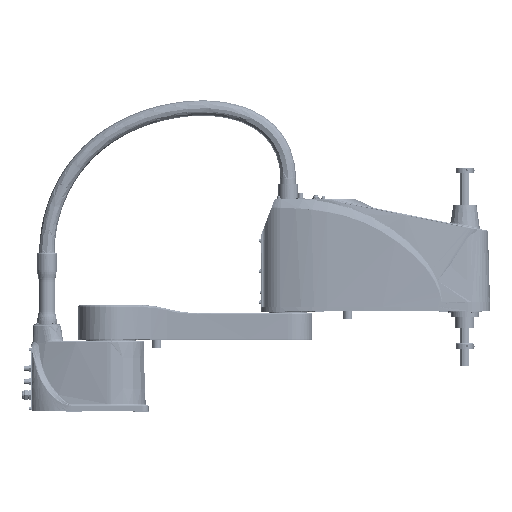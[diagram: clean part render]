
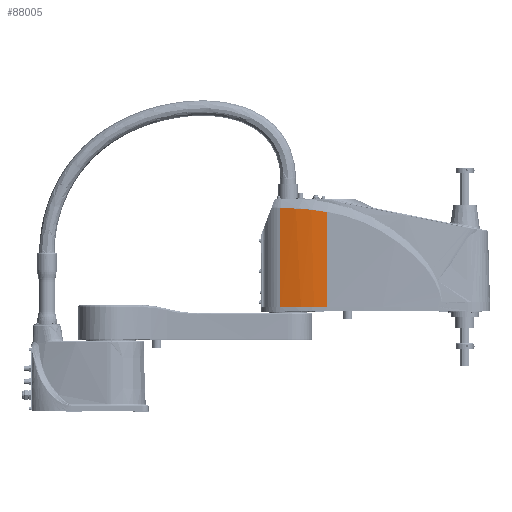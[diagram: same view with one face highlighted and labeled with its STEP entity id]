
A CAD part, top view. The second image highlights one B-rep face of the part: STEP entity #88005.
In plain terms, the highlighted cylindrical face has radius 378.01 mm (diameter 756.02 mm), a partial arc.
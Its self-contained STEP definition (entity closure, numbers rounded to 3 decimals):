
#5980 = VECTOR ( 'NONE', #121865, 1000. ) ;
#13434 = CARTESIAN_POINT ( 'NONE',  ( 484.396, 451.819, 74.483 ) ) ;
#14195 = CARTESIAN_POINT ( 'NONE',  ( 391.382, 460.252, 62.055 ) ) ;
#14941 = CARTESIAN_POINT ( 'NONE',  ( 417.517, 459.26, 67.897 ) ) ;
#16456 = VERTEX_POINT ( 'NONE', #225027 ) ;
#26816 = CARTESIAN_POINT ( 'NONE',  ( 488., 451.178, 74.5 ) ) ;
#29043 = CYLINDRICAL_SURFACE ( 'NONE', #31838, 378.01 ) ;
#29714 = CARTESIAN_POINT ( 'NONE',  ( 486.89, 451.37, 74.5 ) ) ;
#31302 = CARTESIAN_POINT ( 'NONE',  ( 399.811, 237., 64.499 ) ) ;
#31838 = AXIS2_PLACEMENT_3D ( 'NONE', #65748, #205390, #209177 ) ;
#32025 = CARTESIAN_POINT ( 'NONE',  ( 483.704, 451.948, 74.476 ) ) ;
#32719 = EDGE_CURVE ( 'NONE', #61798, #16456, #135805, .T. ) ;
#32782 = CARTESIAN_POINT ( 'NONE',  ( 481.906, 452.281, 74.451 ) ) ;
#33593 = CARTESIAN_POINT ( 'NONE',  ( 452.442, 237., 73.244 ) ) ;
#33642 = LINE ( 'NONE', #70803, #183228 ) ;
#37800 = EDGE_CURVE ( 'NONE', #219121, #16456, #33642, .T. ) ;
#40721 = EDGE_CURVE ( 'NONE', #214014, #219121, #72146, .T. ) ;
#48345 = CARTESIAN_POINT ( 'NONE',  ( 443.825, 457.467, 72.015 ) ) ;
#49097 = CARTESIAN_POINT ( 'NONE',  ( 413.148, 459.471, 67.042 ) ) ;
#51392 = CARTESIAN_POINT ( 'NONE',  ( 470.221, 237., 74.5 ) ) ;
#61798 = VERTEX_POINT ( 'NONE', #155151 ) ;
#65748 = CARTESIAN_POINT ( 'NONE',  ( 488., 482.01, -303.51 ) ) ;
#66136 = CARTESIAN_POINT ( 'NONE',  ( 482.459, 452.179, 74.46 ) ) ;
#66894 = CARTESIAN_POINT ( 'NONE',  ( 483.566, 451.974, 74.474 ) ) ;
#70803 = CARTESIAN_POINT ( 'NONE',  ( 488., 482.01, 74.5 ) ) ;
#72146 = B_SPLINE_CURVE_WITH_KNOTS ( 'NONE', 3,
 ( #136716, #14195, #118871, #49097, #14941, #173144, #173881, #48345, #138988, #172398, #192495, #171627, #138220, #32782, #66136, #156155, #207278, #66894, #32025, #86279, #101038, #13434, #156897, #102554, #29714, #225107 ),
 .UNSPECIFIED., .F., .F.,
 ( 4, 2, 2, 2, 2, 2, 2, 2, 2, 2, 2, 2, 4 ),
 ( 0., 0.25, 0.375, 0.5, 0.75, 0.875, 0.938, 0.953, 0.957, 0.961, 0.965, 0.969, 1. ),
 .UNSPECIFIED. ) ;
#81719 = CARTESIAN_POINT ( 'NONE',  ( 382.735, 460.41, 59.548 ) ) ;
#86279 = CARTESIAN_POINT ( 'NONE',  ( 483.981, 451.896, 74.479 ) ) ;
#88005 = ADVANCED_FACE ( 'NONE', ( #123577 ), #29043, .T. ) ;
#94721 = LINE ( 'NONE', #139671, #5980 ) ;
#101038 = CARTESIAN_POINT ( 'NONE',  ( 484.119, 451.87, 74.48 ) ) ;
#102554 = CARTESIAN_POINT ( 'NONE',  ( 485.781, 451.566, 74.495 ) ) ;
#104128 = CARTESIAN_POINT ( 'NONE',  ( 488., 237., 74.5 ) ) ;
#108376 = EDGE_CURVE ( 'NONE', #214014, #61798, #94721, .T. ) ;
#118871 = CARTESIAN_POINT ( 'NONE',  ( 400.068, 460.012, 64.239 ) ) ;
#121865 = DIRECTION ( 'NONE',  ( 0., -1., 0. ) ) ;
#123577 = FACE_OUTER_BOUND ( 'NONE', #167121, .T. ) ;
#129894 = ORIENTED_EDGE ( 'NONE', *, *, #40721, .F. ) ;
#135805 = B_SPLINE_CURVE_WITH_KNOTS ( 'NONE', 3,
 ( #187945, #31302, #174686, #33593, #51392, #104128 ),
 .UNSPECIFIED., .F., .F.,
 ( 4, 2, 4 ),
 ( 0., 0.5, 1. ),
 .UNSPECIFIED. ) ;
#136716 = CARTESIAN_POINT ( 'NONE',  ( 382.735, 460.41, 59.548 ) ) ;
#138220 = CARTESIAN_POINT ( 'NONE',  ( 479.139, 452.781, 74.403 ) ) ;
#138988 = CARTESIAN_POINT ( 'NONE',  ( 452.633, 456.596, 72.946 ) ) ;
#139671 = CARTESIAN_POINT ( 'NONE',  ( 382.735, 482.01, 59.548 ) ) ;
#143797 = ORIENTED_EDGE ( 'NONE', *, *, #32719, .T. ) ;
#155151 = CARTESIAN_POINT ( 'NONE',  ( 382.735, 237., 59.548 ) ) ;
#156155 = CARTESIAN_POINT ( 'NONE',  ( 483.151, 452.051, 74.469 ) ) ;
#156897 = CARTESIAN_POINT ( 'NONE',  ( 484.535, 451.794, 74.484 ) ) ;
#167121 = EDGE_LOOP ( 'NONE', ( #129894, #209399, #143797, #175844 ) ) ;
#171627 = CARTESIAN_POINT ( 'NONE',  ( 476.927, 453.16, 74.344 ) ) ;
#172398 = CARTESIAN_POINT ( 'NONE',  ( 465.874, 454.879, 73.878 ) ) ;
#173144 = CARTESIAN_POINT ( 'NONE',  ( 426.269, 458.762, 69.452 ) ) ;
#173881 = CARTESIAN_POINT ( 'NONE',  ( 430.653, 458.477, 70.151 ) ) ;
#174686 = CARTESIAN_POINT ( 'NONE',  ( 417.236, 237., 68.243 ) ) ;
#175490 = DIRECTION ( 'NONE',  ( 0., -1., 0. ) ) ;
#175844 = ORIENTED_EDGE ( 'NONE', *, *, #37800, .F. ) ;
#183228 = VECTOR ( 'NONE', #175490, 1000. ) ;
#187945 = CARTESIAN_POINT ( 'NONE',  ( 382.735, 237., 59.548 ) ) ;
#192495 = CARTESIAN_POINT ( 'NONE',  ( 470.293, 454.238, 74.111 ) ) ;
#205390 = DIRECTION ( 'NONE',  ( 0., -1., 0. ) ) ;
#207278 = CARTESIAN_POINT ( 'NONE',  ( 483.289, 452.025, 74.471 ) ) ;
#209177 = DIRECTION ( 'NONE',  ( 0., 0., -1. ) ) ;
#209399 = ORIENTED_EDGE ( 'NONE', *, *, #108376, .T. ) ;
#214014 = VERTEX_POINT ( 'NONE', #81719 ) ;
#219121 = VERTEX_POINT ( 'NONE', #26816 ) ;
#225027 = CARTESIAN_POINT ( 'NONE',  ( 488., 237., 74.5 ) ) ;
#225107 = CARTESIAN_POINT ( 'NONE',  ( 488., 451.178, 74.5 ) ) ;
